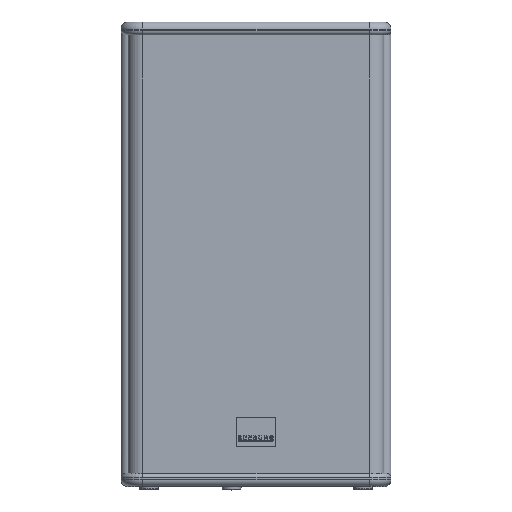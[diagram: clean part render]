
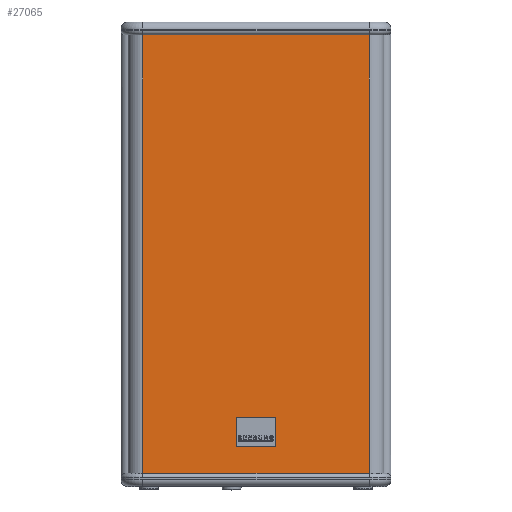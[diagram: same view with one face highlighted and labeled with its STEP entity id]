
A CAD part, top view. The second image highlights one B-rep face of the part: STEP entity #27065.
In plain terms, the highlighted planar face has unit normal (0, 0, 1) as drawn and (0, -1, 0) by its records, which use the part's own axes.
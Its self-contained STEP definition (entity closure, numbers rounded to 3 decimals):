
#22687 = CARTESIAN_POINT ( 'NONE',  ( 20., 6.5, 406. ) ) ;
#22688 = DIRECTION ( 'NONE',  ( 1., 0., 0. ) ) ;
#22689 = VECTOR ( 'NONE', #22688, 1000. ) ;
#22690 = CARTESIAN_POINT ( 'NONE',  ( 20., 6.5, 406. ) ) ;
#22691 = LINE ( 'NONE', #22690, #22689 ) ;
#22692 = CARTESIAN_POINT ( 'NONE',  ( 230., 6.438, 406. ) ) ;
#22693 = DIRECTION ( 'NONE',  ( 0., 0., -1. ) ) ;
#22694 = VECTOR ( 'NONE', #22693, 1000. ) ;
#22695 = CARTESIAN_POINT ( 'NONE',  ( 230., 6.438, 0. ) ) ;
#22696 = LINE ( 'NONE', #22695, #22694 ) ;
#22697 = CARTESIAN_POINT ( 'NONE',  ( 230., 6.438, 0. ) ) ;
#22698 = CARTESIAN_POINT ( 'NONE',  ( 20., 6.5, 0. ) ) ;
#22699 = DIRECTION ( 'NONE',  ( 1., 0., 0. ) ) ;
#22700 = VECTOR ( 'NONE', #22699, 1000. ) ;
#22701 = CARTESIAN_POINT ( 'NONE',  ( 20., 6.5, 0. ) ) ;
#22702 = LINE ( 'NONE', #22701, #22700 ) ;
#22703 = DIRECTION ( 'NONE',  ( 1., 0., 0. ) ) ;
#22704 = DIRECTION ( 'NONE',  ( 0., -1., 0. ) ) ;
#22705 = CARTESIAN_POINT ( 'NONE',  ( 230., 6.438, 0. ) ) ;
#22706 = AXIS2_PLACEMENT_3D ( 'NONE', #22705, #22704, #22703 ) ;
#22707 = PLANE ( 'NONE',  #22706 ) ;
#22710 = FACE_OUTER_BOUND ( 'NONE', #27066, .T. ) ;
#22820 = DIRECTION ( 'NONE',  ( 0., 0., 1. ) ) ;
#22821 = VECTOR ( 'NONE', #22820, 1000. ) ;
#22822 = CARTESIAN_POINT ( 'NONE',  ( 20., 6.5, 0. ) ) ;
#22823 = LINE ( 'NONE', #22822, #22821 ) ;
#27065 = ADVANCED_FACE ( 'NONE', ( #22710 ), #22707, .T. ) ;
#27066 = EDGE_LOOP ( 'NONE', ( #27067, #27071, #27074, #27077 ) ) ;
#27067 = ORIENTED_EDGE ( 'NONE', *, *, #27068, .T. ) ;
#27068 = EDGE_CURVE ( 'NONE', #27069, #27070, #22702, .T. ) ;
#27069 = VERTEX_POINT ( 'NONE', #22698 ) ;
#27070 = VERTEX_POINT ( 'NONE', #22697 ) ;
#27071 = ORIENTED_EDGE ( 'NONE', *, *, #27072, .F. ) ;
#27072 = EDGE_CURVE ( 'NONE', #27073, #27070, #22696, .T. ) ;
#27073 = VERTEX_POINT ( 'NONE', #22692 ) ;
#27074 = ORIENTED_EDGE ( 'NONE', *, *, #27075, .F. ) ;
#27075 = EDGE_CURVE ( 'NONE', #27076, #27073, #22691, .T. ) ;
#27076 = VERTEX_POINT ( 'NONE', #22687 ) ;
#27077 = ORIENTED_EDGE ( 'NONE', *, *, #27126, .F. ) ;
#27126 = EDGE_CURVE ( 'NONE', #27069, #27076, #22823, .T. ) ;
